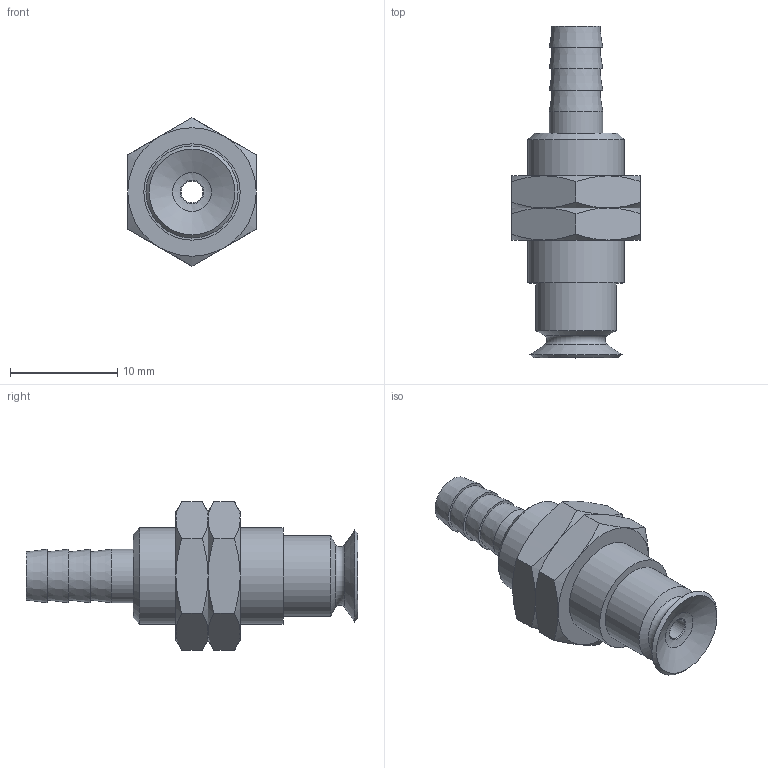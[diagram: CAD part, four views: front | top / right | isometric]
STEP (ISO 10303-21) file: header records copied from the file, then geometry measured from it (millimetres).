
FILE_DESCRIPTION(('STEP AP203'),'1');
FILE_NAME('.stp','2025-04-07T01:26:20',(' '),(' '),'Spatial InterOp 3D',' ',' ');
FILE_SCHEMA(('CONFIG_CONTROL_DESIGN'));
Length unit declared in the file: millimetre
Products named in the file (4): BBPFTK-8A-※; NUT-8A; PFTK-5A; BPFG-8A-※
Assembly tree (4 placements, depth 2):
  BBPFTK-8A-※
    NUT-8A  x2
    PFTK-5A
    BPFG-8A-※
Bounding box: 12 x 31 x 13.86 mm (x, y, z)
Volume: 1610.8 mm3; surface area: 1993.6 mm2
Topology: 4 solids, 4 shells, 86 faces, 172 edges, 101 vertices
Faces by surface type: cone 37, plane 27, cylinder 11, torus 10, bspline 1
Full cylindrical faces by diameter (mm): 2 x1, 2.5 x1, 4 x2, 5 x1, 6 x2, 7.5 x1, 7.917 x2, 9 x1
Entity records: 1827 total; most frequent: CARTESIAN_POINT 489, DIRECTION 252, ORIENTED_EDGE 172, AXIS2_PLACEMENT_3D 123, EDGE_LOOP 108, EDGE_CURVE 86, FACE_OUTER_BOUND 84, VERTEX_POINT 68
